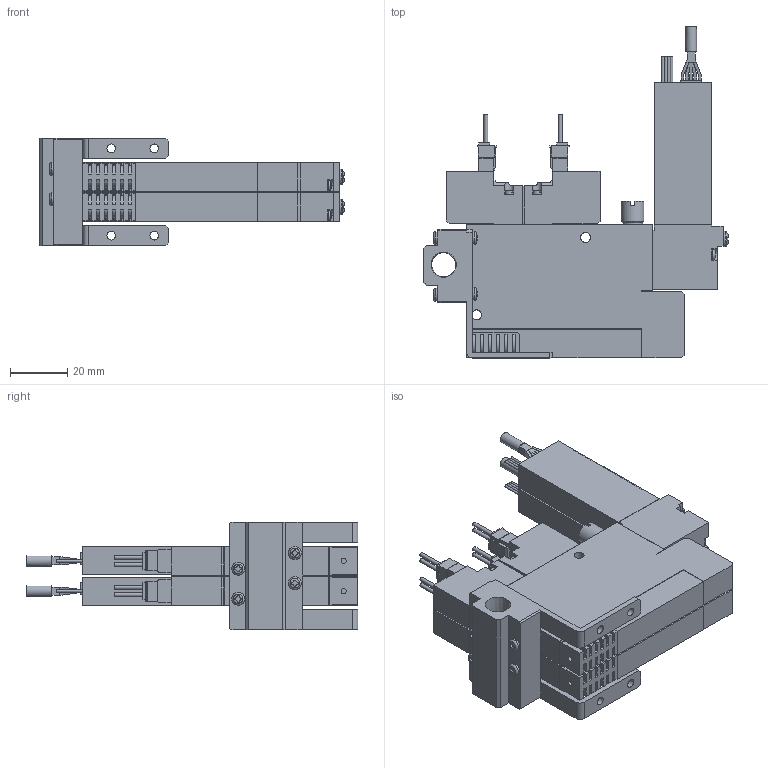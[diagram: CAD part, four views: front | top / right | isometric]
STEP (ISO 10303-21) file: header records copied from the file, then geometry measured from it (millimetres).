
FILE_DESCRIPTION(('STEP AP203'),'1');
FILE_NAME('5SS202_3D.stp','2024-09-04T09:30:51',(' '),(' '),'Spatial InterOp 3D',' ',' ');
FILE_SCHEMA(('CONFIG_CONTROL_DESIGN'));
Length unit declared in the file: millimetre
Products named in the file (5): BSC1M※※10※5SS202; Solenoid valve S; Pressure Sensor 10; Unit-S; BaseMS20R
Assembly tree (7 placements, depth 2):
  BSC1M※※10※5SS202
    Solenoid valve S  x2
    Pressure Sensor 10  x2
    Unit-S  x2
    BaseMS20R
Bounding box: 106.35 x 115.8 x 37.5 mm (x, y, z)
Volume: 120983.7 mm3; surface area: 49268.3 mm2
Topology: 7 solids, 7 shells, 1127 faces, 3081 edges, 2038 vertices
Faces by surface type: plane 828, cylinder 259, torus 14, sphere 14, cone 12
Full cylindrical faces by diameter (mm): 0.9 x8, 1.4 x8, 1.8 x2, 2.5 x4, 3 x12, 3.5 x16, 3.8 x2, 4 x2, 4.134 x4, 4.5 x8, 5.5 x4, 7 x2, 7.7 x2, 8 x2, 8.422 x1
Entity records: 20514 total; most frequent: CARTESIAN_POINT 4298, ORIENTED_EDGE 3272, DIRECTION 3212, EDGE_CURVE 1636, LINE 1220, VECTOR 1220, VERTEX_POINT 1122, AXIS2_PLACEMENT_3D 996
